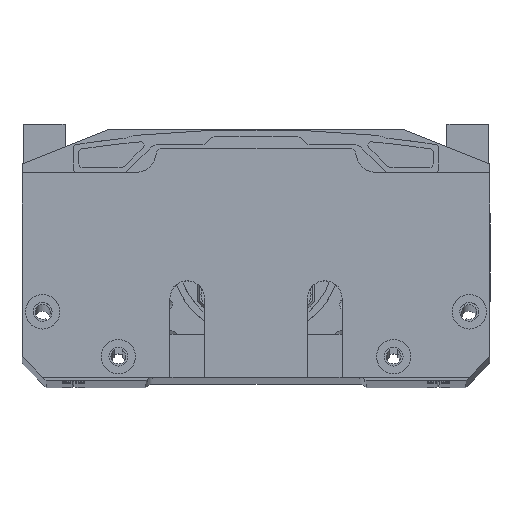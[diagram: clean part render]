
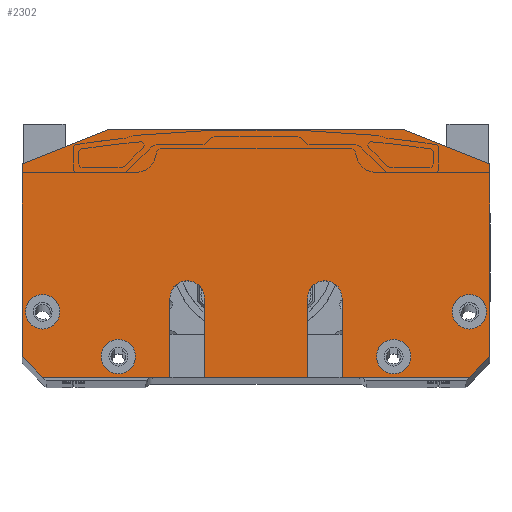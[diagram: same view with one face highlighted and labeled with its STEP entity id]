
A CAD part, top view. The second image highlights one B-rep face of the part: STEP entity #2302.
In plain terms, the highlighted planar face has unit normal (0, 0, 1).
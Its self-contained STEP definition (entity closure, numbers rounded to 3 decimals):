
#2302=ADVANCED_FACE('9',(#6039,#6040,#6041,#6042,#6043),#2971,.T.);
#2971=PLANE('',#19401);
#3550=LINE('',#27889,#4874);
#3572=LINE('',#27949,#4896);
#3583=LINE('',#27970,#4907);
#3586=LINE('',#27975,#4910);
#3589=LINE('',#27980,#4913);
#3599=LINE('',#28001,#4923);
#3623=LINE('',#28051,#4947);
#4038=LINE('',#31594,#5362);
#4042=LINE('',#31602,#5366);
#4044=LINE('',#31609,#5368);
#4048=LINE('',#31617,#5372);
#4053=LINE('',#31640,#5377);
#4056=LINE('',#31646,#5380);
#4062=LINE('',#31685,#5386);
#4874=VECTOR('',#21372,1.);
#4896=VECTOR('',#21432,1.);
#4907=VECTOR('',#21451,1.);
#4910=VECTOR('',#21454,1.);
#4913=VECTOR('',#21457,1.);
#4923=VECTOR('',#21475,1.);
#4947=VECTOR('',#21507,1.);
#5362=VECTOR('',#23254,1.);
#5366=VECTOR('',#23260,1.);
#5368=VECTOR('',#23270,1.);
#5372=VECTOR('',#23276,1.);
#5377=VECTOR('',#23301,1.);
#5380=VECTOR('',#23306,1.);
#5386=VECTOR('',#23358,1.);
#6039=FACE_BOUND('',#7067,.T.);
#6040=FACE_BOUND('',#7068,.T.);
#6041=FACE_BOUND('',#7069,.T.);
#6042=FACE_BOUND('',#7070,.T.);
#6043=FACE_BOUND('',#7071,.T.);
#7067=EDGE_LOOP('',(#10684,#10685,#10686,#10687,#10688,#10689,#10690,#10691,
#10692,#10693,#10694,#10695,#10696,#10697,#10698,#10699));
#7068=EDGE_LOOP('',(#10700));
#7069=EDGE_LOOP('',(#10701));
#7070=EDGE_LOOP('',(#10702));
#7071=EDGE_LOOP('',(#10703));
#10684=ORIENTED_EDGE('',*,*,#16450,.T.);
#10685=ORIENTED_EDGE('',*,*,#16452,.T.);
#10686=ORIENTED_EDGE('',*,*,#16446,.T.);
#10687=ORIENTED_EDGE('',*,*,#15552,.F.);
#10688=ORIENTED_EDGE('',*,*,#16458,.T.);
#10689=ORIENTED_EDGE('',*,*,#16460,.T.);
#10690=ORIENTED_EDGE('',*,*,#16454,.T.);
#10691=ORIENTED_EDGE('',*,*,#15549,.F.);
#10692=ORIENTED_EDGE('',*,*,#15566,.T.);
#10693=ORIENTED_EDGE('',*,*,#15592,.F.);
#10694=ORIENTED_EDGE('',*,*,#16469,.T.);
#10695=ORIENTED_EDGE('',*,*,#16491,.F.);
#10696=ORIENTED_EDGE('',*,*,#16472,.T.);
#10697=ORIENTED_EDGE('',*,*,#15505,.F.);
#10698=ORIENTED_EDGE('',*,*,#15537,.T.);
#10699=ORIENTED_EDGE('',*,*,#15555,.F.);
#10700=ORIENTED_EDGE('',*,*,#16492,.F.);
#10701=ORIENTED_EDGE('',*,*,#16493,.F.);
#10702=ORIENTED_EDGE('',*,*,#16494,.F.);
#10703=ORIENTED_EDGE('',*,*,#16495,.F.);
#13525=VERTEX_POINT('',#27888);
#13526=VERTEX_POINT('',#27890);
#13544=VERTEX_POINT('',#27948);
#13550=VERTEX_POINT('',#27969);
#13551=VERTEX_POINT('',#27971);
#13552=VERTEX_POINT('',#27974);
#13553=VERTEX_POINT('',#27976);
#13554=VERTEX_POINT('',#27979);
#13561=VERTEX_POINT('',#28000);
#13583=VERTEX_POINT('',#28050);
#14110=VERTEX_POINT('',#31595);
#14112=VERTEX_POINT('',#31601);
#14114=VERTEX_POINT('',#31610);
#14116=VERTEX_POINT('',#31616);
#14125=VERTEX_POINT('',#31641);
#14127=VERTEX_POINT('',#31647);
#14137=VERTEX_POINT('',#31687);
#14138=VERTEX_POINT('',#31689);
#14139=VERTEX_POINT('',#31691);
#14140=VERTEX_POINT('',#31693);
#15505=EDGE_CURVE('',#13525,#13526,#3550,.T.);
#15537=EDGE_CURVE('',#13525,#13544,#3572,.T.);
#15549=EDGE_CURVE('',#13550,#13551,#3583,.T.);
#15552=EDGE_CURVE('',#13552,#13553,#3586,.T.);
#15555=EDGE_CURVE('',#13554,#13544,#3589,.T.);
#15566=EDGE_CURVE('',#13550,#13561,#3599,.T.);
#15592=EDGE_CURVE('',#13583,#13561,#3623,.T.);
#16446=EDGE_CURVE('',#14110,#13553,#4038,.T.);
#16450=EDGE_CURVE('',#13554,#14112,#4042,.T.);
#16452=EDGE_CURVE('',#14112,#14110,#17896,.T.);
#16454=EDGE_CURVE('',#14114,#13551,#4044,.T.);
#16458=EDGE_CURVE('',#13552,#14116,#4048,.T.);
#16460=EDGE_CURVE('',#14116,#14114,#17898,.T.);
#16469=EDGE_CURVE('',#13583,#14125,#4053,.T.);
#16472=EDGE_CURVE('',#14127,#13526,#4056,.T.);
#16491=EDGE_CURVE('',#14127,#14125,#4062,.T.);
#16492=EDGE_CURVE('',#14137,#14137,#17916,.T.);
#16493=EDGE_CURVE('',#14138,#14138,#17917,.T.);
#16494=EDGE_CURVE('',#14139,#14139,#17918,.T.);
#16495=EDGE_CURVE('',#14140,#14140,#17919,.T.);
#17896=CIRCLE('',#19360,5.);
#17898=CIRCLE('',#19365,5.);
#17916=CIRCLE('',#19397,5.);
#17917=CIRCLE('',#19398,5.);
#17918=CIRCLE('',#19399,5.);
#17919=CIRCLE('',#19400,5.);
#19360=AXIS2_PLACEMENT_3D('',#31605,#23265,#23266);
#19365=AXIS2_PLACEMENT_3D('',#31620,#23281,#23282);
#19397=AXIS2_PLACEMENT_3D('',#31686,#23359,#23360);
#19398=AXIS2_PLACEMENT_3D('',#31688,#23361,#23362);
#19399=AXIS2_PLACEMENT_3D('',#31690,#23363,#23364);
#19400=AXIS2_PLACEMENT_3D('',#31692,#23365,#23366);
#19401=AXIS2_PLACEMENT_3D('',#31694,#23367,#23368);
#21372=DIRECTION('',(0.,1.,0.));
#21432=DIRECTION('',(0.707,-0.707,0.));
#21451=DIRECTION('',(-1.,0.,0.));
#21454=DIRECTION('',(-1.,0.,0.));
#21457=DIRECTION('',(-1.,0.,0.));
#21475=DIRECTION('',(0.707,0.707,0.));
#21507=DIRECTION('',(0.,-1.,0.));
#23254=DIRECTION('',(0.,-1.,0.));
#23260=DIRECTION('',(0.,1.,0.));
#23265=DIRECTION('',(0.,0.,-1.));
#23266=DIRECTION('',(1.,0.,0.));
#23270=DIRECTION('',(0.,-1.,0.));
#23276=DIRECTION('',(0.,1.,0.));
#23281=DIRECTION('',(0.,0.,-1.));
#23282=DIRECTION('',(-1.,0.,0.));
#23301=DIRECTION('',(-0.928,0.371,0.));
#23306=DIRECTION('',(-0.928,-0.371,0.));
#23358=DIRECTION('',(1.,0.,0.));
#23359=DIRECTION('',(0.,0.,1.));
#23360=DIRECTION('',(1.,0.,0.));
#23361=DIRECTION('',(0.,0.,1.));
#23362=DIRECTION('',(1.,0.,0.));
#23363=DIRECTION('',(0.,0.,1.));
#23364=DIRECTION('',(1.,0.,0.));
#23365=DIRECTION('',(0.,0.,1.));
#23366=DIRECTION('',(1.,0.,0.));
#23367=DIRECTION('',(0.,0.,1.));
#23368=DIRECTION('',(-1.,0.,0.));
#27888=CARTESIAN_POINT('',(-68.,6.,382.));
#27889=CARTESIAN_POINT('',(-68.,0.,382.));
#27890=CARTESIAN_POINT('',(-68.,62.,382.));
#27948=CARTESIAN_POINT('',(-62.,0.,382.));
#27949=CARTESIAN_POINT('',(-49.,-13.,382.));
#27969=CARTESIAN_POINT('',(62.,0.,382.));
#27970=CARTESIAN_POINT('',(68.,0.,382.));
#27971=CARTESIAN_POINT('',(25.,0.,382.));
#27974=CARTESIAN_POINT('',(15.,0.,382.));
#27975=CARTESIAN_POINT('',(68.,0.,382.));
#27976=CARTESIAN_POINT('',(-15.,0.,382.));
#27979=CARTESIAN_POINT('',(-25.,0.,382.));
#27980=CARTESIAN_POINT('',(68.,0.,382.));
#28000=CARTESIAN_POINT('',(68.,6.,382.));
#28001=CARTESIAN_POINT('',(49.,-13.,382.));
#28050=CARTESIAN_POINT('',(68.,62.,382.));
#28051=CARTESIAN_POINT('',(68.,0.,382.));
#31594=CARTESIAN_POINT('',(-15.,23.,382.));
#31595=CARTESIAN_POINT('',(-15.,23.,382.));
#31601=CARTESIAN_POINT('',(-25.,23.,382.));
#31602=CARTESIAN_POINT('',(-25.,23.,382.));
#31605=CARTESIAN_POINT('',(-20.,23.,382.));
#31609=CARTESIAN_POINT('',(25.,23.,382.));
#31610=CARTESIAN_POINT('',(25.,23.,382.));
#31616=CARTESIAN_POINT('',(15.,23.,382.));
#31617=CARTESIAN_POINT('',(15.,23.,382.));
#31620=CARTESIAN_POINT('',(20.,23.,382.));
#31640=CARTESIAN_POINT('',(18.345,81.862,382.));
#31641=CARTESIAN_POINT('',(43.,72.,382.));
#31646=CARTESIAN_POINT('',(-18.345,81.862,382.));
#31647=CARTESIAN_POINT('',(-43.,72.,382.));
#31685=CARTESIAN_POINT('',(68.,72.,382.));
#31686=CARTESIAN_POINT('',(-62.,19.,382.));
#31687=CARTESIAN_POINT('',(-57.,19.,382.));
#31688=CARTESIAN_POINT('',(62.,19.,382.));
#31689=CARTESIAN_POINT('',(67.,19.,382.));
#31690=CARTESIAN_POINT('',(-40.,6.,382.));
#31691=CARTESIAN_POINT('',(-35.,6.,382.));
#31692=CARTESIAN_POINT('',(40.,6.,382.));
#31693=CARTESIAN_POINT('',(45.,6.,382.));
#31694=CARTESIAN_POINT('',(0.,36.,382.));
